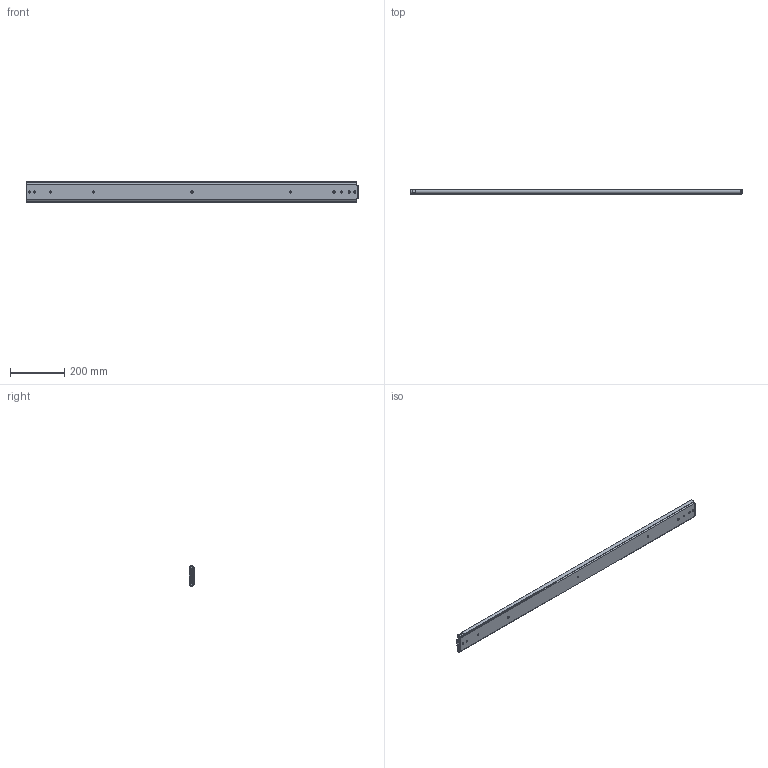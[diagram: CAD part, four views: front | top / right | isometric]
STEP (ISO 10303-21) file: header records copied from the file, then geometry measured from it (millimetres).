
FILE_DESCRIPTION((''),'2;1');
FILE_NAME('DG-76-02-48_ASM','2023-05-15T',('jishu015'),(''),'PRO/ENGINEER BY PARAMETRIC TECHNOLOGY CORPORATION, 2010280','PRO/ENGINEER BY PARAMETRIC TECHNOLOGY CORPORATION, 2010280','');
FILE_SCHEMA(('CONFIG_CONTROL_DESIGN'));
Length unit declared in the file: millimetre
Products named in the file (18): KP-76-04WAIKE3_____; 1076-WAIKEZIDANJIAO3_____; WAIK72______ASM; 1076XIAOZHUTIAO1_____; 163_____; 1076XIAOZHUTIAO1______ASM; KP-76-04ZHONGGUI3_____; 76CHANGGUIZHONGGUIJIAO3_____; 3X6WODIN3_____; PJ-76-33_____; 76-XIAOZHUJIA3_____; GANGZHU-XIAO3_____; ZHUJIA-XIAO3______ASM; ZHONGGUI3______ASM; KP-76-04NEIGUI3_____; XIN-TANPIAN_____; NEIGUI3______ASM; DG-76-02-48_ASM
Assembly tree (85 placements, depth 4):
  DG-76-02-48_ASM
    WAIK72______ASM
      KP-76-04WAIKE3_____
      1076-WAIKEZIDANJIAO3_____  x2
    1076XIAOZHUTIAO1______ASM  x2
      1076XIAOZHUTIAO1_____
      163_____
    ZHONGGUI3______ASM
      KP-76-04ZHONGGUI3_____
      76CHANGGUIZHONGGUIJIAO3_____
      3X6WODIN3_____
      PJ-76-33_____
      ZHUJIA-XIAO3______ASM
        76-XIAOZHUJIA3_____
        GANGZHU-XIAO3_____  x46
    NEIGUI3______ASM
      KP-76-04NEIGUI3_____
      XIN-TANPIAN_____
Bounding box: 1219.2 x 19.5 x 75.3 mm (x, y, z)
Volume: 796464.7 mm3; surface area: 765098.9 mm2
Topology: 102 solids, 102 shells, 2140 faces, 6740 edges, 4237 vertices
Faces by surface type: plane 1163, cylinder 704, sphere 182, extrusion 69, cone 18, bspline 4
Entity records: 64384 total; most frequent: CARTESIAN_POINT 15088, ORIENTED_EDGE 10940, DIRECTION 9581, EDGE_CURVE 5470, VERTEX_POINT 3573, AXIS2_PLACEMENT_3D 3207, VECTOR 3167, LINE 3098
